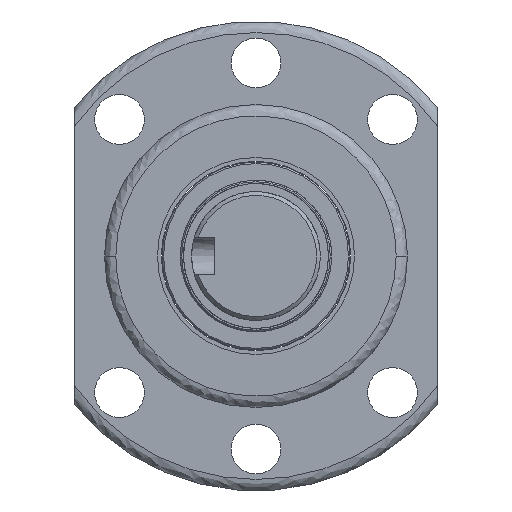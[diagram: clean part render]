
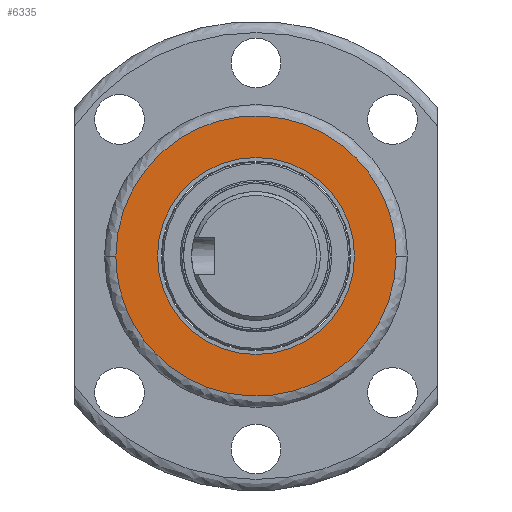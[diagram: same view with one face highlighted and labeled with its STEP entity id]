
A CAD part, left-side view. The second image highlights one B-rep face of the part: STEP entity #6335.
In plain terms, the highlighted planar face has unit normal (-1, 0, 0).
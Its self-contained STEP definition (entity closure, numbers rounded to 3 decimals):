
#15 = EDGE_CURVE ( 'NONE', #6531, #5892, #3424, .T. ) ;
#284 = ORIENTED_EDGE ( 'NONE', *, *, #15, .T. ) ;
#320 = CARTESIAN_POINT ( 'NONE',  ( -66., 0., -13. ) ) ;
#343 = DIRECTION ( 'NONE',  ( 0., 1., 0. ) ) ;
#851 = EDGE_CURVE ( 'NONE', #4964, #2221, #4861, .T. ) ;
#953 = CARTESIAN_POINT ( 'NONE',  ( -66., 0., 0. ) ) ;
#1277 = ORIENTED_EDGE ( 'NONE', *, *, #2514, .F. ) ;
#1615 = DIRECTION ( 'NONE',  ( 0., 0., 1. ) ) ;
#1730 = EDGE_LOOP ( 'NONE', ( #1277, #4767 ) ) ;
#1927 = CARTESIAN_POINT ( 'NONE',  ( -66., -18.5, 0. ) ) ;
#2221 = VERTEX_POINT ( 'NONE', #2274 ) ;
#2274 = CARTESIAN_POINT ( 'NONE',  ( -66., 18.5, 0. ) ) ;
#2439 = CARTESIAN_POINT ( 'NONE',  ( -66., -18.5, 37. ) ) ;
#2446 = CARTESIAN_POINT ( 'NONE',  ( -66., -18.5, -37. ) ) ;
#2467 = AXIS2_PLACEMENT_3D ( 'NONE', #7300, #6737, #1615 ) ;
#2480 = AXIS2_PLACEMENT_3D ( 'NONE', #953, #5933, #5445 ) ;
#2514 = EDGE_CURVE ( 'NONE', #2221, #4964, #2883, .T. ) ;
#2883 =( BOUNDED_CURVE ( )  B_SPLINE_CURVE ( 3, ( #4689, #3597, #2439, #7008 ),
 .UNSPECIFIED., .F., .T. ) 
 B_SPLINE_CURVE_WITH_KNOTS ( ( 4, 4 ),
 ( 0., 1. ),
 .UNSPECIFIED. ) 
 CURVE ( )  GEOMETRIC_REPRESENTATION_ITEM ( )  RATIONAL_B_SPLINE_CURVE ( ( 1., 0.333, 0.333, 1. ) ) 
 REPRESENTATION_ITEM ( '' )  );
#3182 = PLANE ( 'NONE',  #4105 ) ;
#3424 = CIRCLE ( 'NONE', #2467, 13. ) ;
#3597 = CARTESIAN_POINT ( 'NONE',  ( -66., 18.5, 37. ) ) ;
#3606 = CARTESIAN_POINT ( 'NONE',  ( -66., 18.5, -37. ) ) ;
#3681 = CIRCLE ( 'NONE', #2480, 13. ) ;
#3780 = FACE_OUTER_BOUND ( 'NONE', #1730, .T. ) ;
#4105 = AXIS2_PLACEMENT_3D ( 'NONE', #5354, #5473, #343 ) ;
#4593 = CARTESIAN_POINT ( 'NONE',  ( -66., -18.5, 0. ) ) ;
#4689 = CARTESIAN_POINT ( 'NONE',  ( -66., 18.5, 0. ) ) ;
#4767 = ORIENTED_EDGE ( 'NONE', *, *, #851, .F. ) ;
#4861 =( BOUNDED_CURVE ( )  B_SPLINE_CURVE ( 3, ( #1927, #2446, #3606, #5333 ),
 .UNSPECIFIED., .F., .F. ) 
 B_SPLINE_CURVE_WITH_KNOTS ( ( 4, 4 ),
 ( 0., 1. ),
 .UNSPECIFIED. ) 
 CURVE ( )  GEOMETRIC_REPRESENTATION_ITEM ( )  RATIONAL_B_SPLINE_CURVE ( ( 1., 0.333, 0.333, 1. ) ) 
 REPRESENTATION_ITEM ( '' )  );
#4964 = VERTEX_POINT ( 'NONE', #4593 ) ;
#5218 = ORIENTED_EDGE ( 'NONE', *, *, #7156, .T. ) ;
#5333 = CARTESIAN_POINT ( 'NONE',  ( -66., 18.5, 0. ) ) ;
#5354 = CARTESIAN_POINT ( 'NONE',  ( -66., 14.5, 0. ) ) ;
#5445 = DIRECTION ( 'NONE',  ( 0., 0., 1. ) ) ;
#5473 = DIRECTION ( 'NONE',  ( -1., 0., 0. ) ) ;
#5892 = VERTEX_POINT ( 'NONE', #320 ) ;
#5933 = DIRECTION ( 'NONE',  ( 1., 0., 0. ) ) ;
#6335 = ADVANCED_FACE ( 'NONE', ( #7081, #3780 ), #3182, .T. ) ;
#6531 = VERTEX_POINT ( 'NONE', #7340 ) ;
#6737 = DIRECTION ( 'NONE',  ( 1., 0., 0. ) ) ;
#7008 = CARTESIAN_POINT ( 'NONE',  ( -66., -18.5, 0. ) ) ;
#7081 = FACE_BOUND ( 'NONE', #7135, .T. ) ;
#7135 = EDGE_LOOP ( 'NONE', ( #284, #5218 ) ) ;
#7156 = EDGE_CURVE ( 'NONE', #5892, #6531, #3681, .T. ) ;
#7300 = CARTESIAN_POINT ( 'NONE',  ( -66., 0., 0. ) ) ;
#7340 = CARTESIAN_POINT ( 'NONE',  ( -66., 0., 13. ) ) ;
